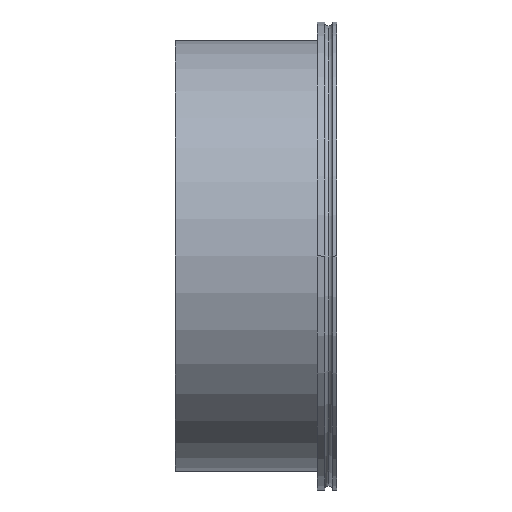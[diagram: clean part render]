
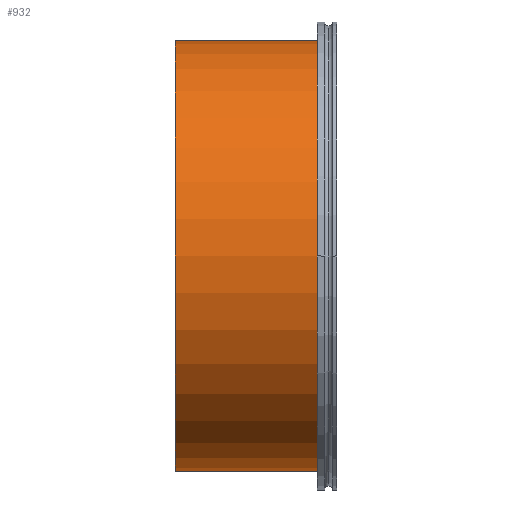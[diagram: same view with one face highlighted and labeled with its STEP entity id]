
A CAD part, front view. The second image highlights one B-rep face of the part: STEP entity #932.
In plain terms, the highlighted cylindrical face has radius 133.5 mm (diameter 267 mm), a partial arc.
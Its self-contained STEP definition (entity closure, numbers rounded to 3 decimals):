
#786=CARTESIAN_POINT('',(-88.,0.,-133.5));
#787=VERTEX_POINT('',#786);
#788=CARTESIAN_POINT('',(6.,0.,-133.5));
#789=VERTEX_POINT('',#788);
#790=CARTESIAN_POINT('',(-88.,0.,-133.5));
#791=DIRECTION('',(1.0,0.0,0.0));
#792=VECTOR('',#791,94.0);
#793=LINE('',#790,#792);
#794=EDGE_CURVE('',#787,#789,#793,.T.);
#796=CARTESIAN_POINT('',(-88.,0.,133.5));
#797=VERTEX_POINT('',#796);
#805=CARTESIAN_POINT('',(6.,0.,133.5));
#806=VERTEX_POINT('',#805);
#807=CARTESIAN_POINT('',(6.,0.,133.5));
#808=DIRECTION('',(-1.0,0.0,0.0));
#809=VECTOR('',#808,94.0);
#810=LINE('',#807,#809);
#811=EDGE_CURVE('',#806,#797,#810,.T.);
#909=CARTESIAN_POINT('',(-88.,0.0,0.0));
#910=DIRECTION('',(1.0,0.0,0.0));
#911=DIRECTION('',(0.0,0.0,-1.0));
#912=AXIS2_PLACEMENT_3D('',#909,#910,#911);
#913=CYLINDRICAL_SURFACE('',#912,133.5);
#914=ORIENTED_EDGE('',*,*,#794,.T.);
#915=CARTESIAN_POINT('',(6.,0.0,0.0));
#916=DIRECTION('',(1.0,0.0,0.0));
#917=DIRECTION('',(0.0,0.0,-1.0));
#918=AXIS2_PLACEMENT_3D('',#915,#916,#917);
#919=CIRCLE('',#918,133.5);
#920=EDGE_CURVE('',#806,#789,#919,.T.);
#921=ORIENTED_EDGE('',*,*,#920,.F.);
#922=ORIENTED_EDGE('',*,*,#811,.T.);
#923=CARTESIAN_POINT('',(-88.,0.0,0.0));
#924=DIRECTION('',(-1.0,0.0,0.0));
#925=DIRECTION('',(0.0,0.0,-1.0));
#926=AXIS2_PLACEMENT_3D('',#923,#924,#925);
#927=CIRCLE('',#926,133.5);
#928=EDGE_CURVE('',#787,#797,#927,.T.);
#929=ORIENTED_EDGE('',*,*,#928,.F.);
#930=EDGE_LOOP('',(#914,#921,#922,#929));
#931=FACE_OUTER_BOUND('',#930,.T.);
#932=ADVANCED_FACE('',(#931),#913,.T.);
